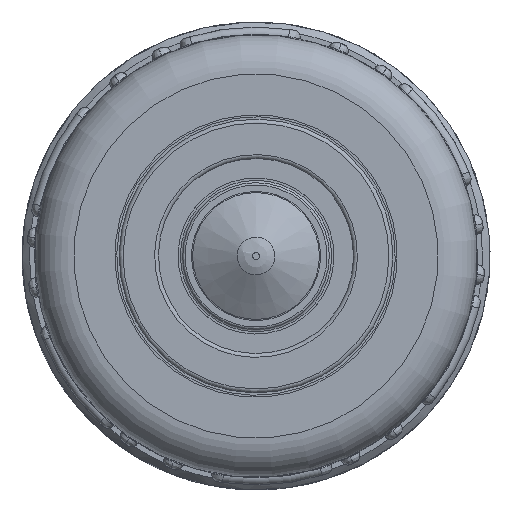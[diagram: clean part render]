
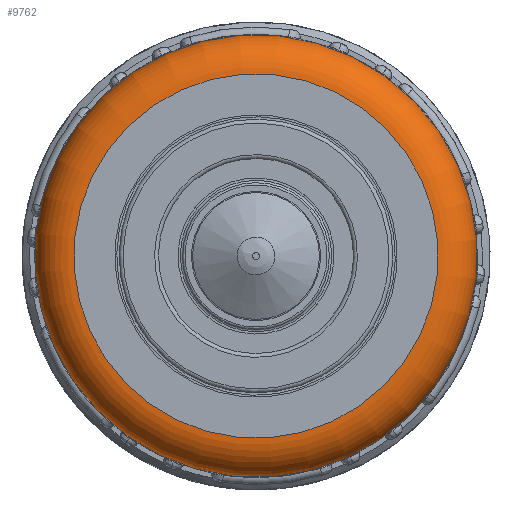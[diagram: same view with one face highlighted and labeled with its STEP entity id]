
A CAD part, front view. The second image highlights one B-rep face of the part: STEP entity #9762.
In plain terms, the highlighted toroidal (fillet/blend) face has major radius 23.35 mm and minor radius 5 mm.
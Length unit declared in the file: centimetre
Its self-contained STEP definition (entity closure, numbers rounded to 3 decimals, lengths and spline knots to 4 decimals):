
#296=FACE_BOUND('',#2654,.T.);
#354=TOROIDAL_SURFACE('',#10555,2.335,0.5);
#2009=FACE_OUTER_BOUND('',#2653,.T.);
#2653=EDGE_LOOP('',(#7537));
#2654=EDGE_LOOP('',(#7538));
#3185=CIRCLE('',#10553,2.335);
#3187=CIRCLE('',#10556,2.835);
#4246=VERTEX_POINT('',#38352);
#4248=VERTEX_POINT('',#38357);
#5426=EDGE_CURVE('',#4246,#4246,#3185,.T.);
#5428=EDGE_CURVE('',#4248,#4248,#3187,.T.);
#7537=ORIENTED_EDGE('',*,*,#5428,.F.);
#7538=ORIENTED_EDGE('',*,*,#5426,.T.);
#9762=ADVANCED_FACE('',(#2009,#296),#354,.T.);
#10553=AXIS2_PLACEMENT_3D('',#38353,#12369,#12370);
#10555=AXIS2_PLACEMENT_3D('',#38356,#12373,#12374);
#10556=AXIS2_PLACEMENT_3D('',#38358,#12375,#12376);
#12369=DIRECTION('center_axis',(0.,1.,0.));
#12370=DIRECTION('ref_axis',(-0.827,0.,-0.562));
#12373=DIRECTION('center_axis',(0.,1.,0.));
#12374=DIRECTION('ref_axis',(0.562,0.,-0.827));
#12375=DIRECTION('center_axis',(0.,1.,0.));
#12376=DIRECTION('ref_axis',(-0.827,0.,-0.562));
#38352=CARTESIAN_POINT('',(1.9314,-3.5501,1.3122));
#38353=CARTESIAN_POINT('Origin',(0.,-3.5501,
0.));
#38356=CARTESIAN_POINT('Origin',(0.,-3.0501,
0.));
#38357=CARTESIAN_POINT('',(2.345,-3.0501,1.5932));
#38358=CARTESIAN_POINT('Origin',(0.,-3.0501,
0.));
